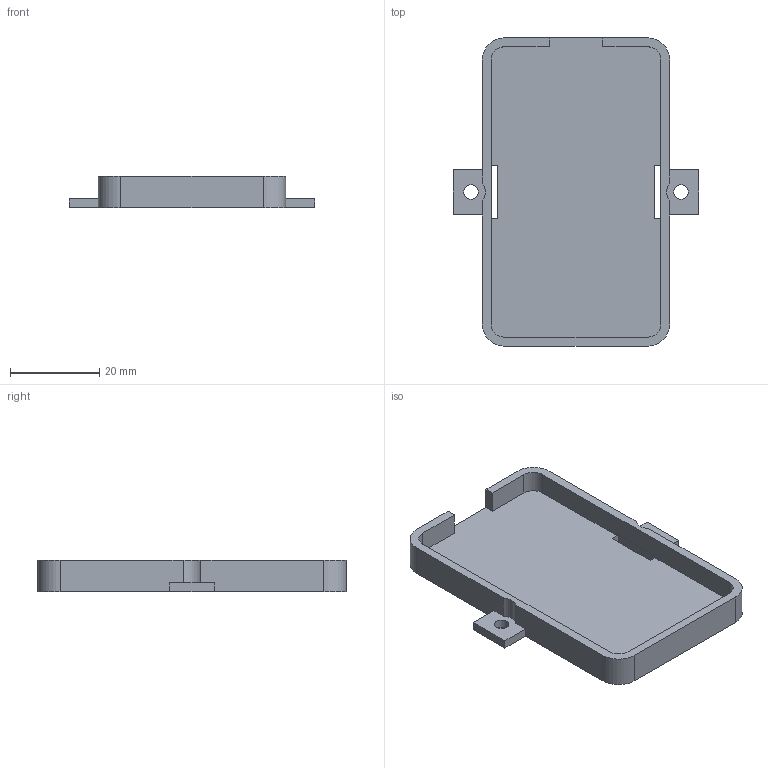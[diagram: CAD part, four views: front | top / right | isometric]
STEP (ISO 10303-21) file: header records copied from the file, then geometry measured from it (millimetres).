
FILE_DESCRIPTION(('Open CASCADE Model'),'2;1');
FILE_NAME('Open CASCADE Shape Model','2026-09-16T15:55:10',('Author'),( 'Open CASCADE'),'Open CASCADE STEP processor 7.9','Open CASCADE 7.9' ,'Unknown');
FILE_SCHEMA(('AUTOMOTIVE_DESIGN { 1 0 10303 214 1 1 1 1 }'));
Length unit declared in the file: millimetre
Products named in the file (1): Open CASCADE STEP translator 7.9 9
Bounding box: 55 x 69 x 7 mm (x, y, z)
Volume: 7811.1 mm3; surface area: 8515.5 mm2
Topology: 1 solids, 1 shells, 46 faces, 138 edges, 92 vertices
Faces by surface type: plane 34, cylinder 12
Full cylindrical faces by diameter (mm): 3.2 x2
Entity records: 3309 total; most frequent: CARTESIAN_POINT 709, DIRECTION 431, ORIENTED_EDGE 276, LINE 276, VECTOR 276, PCURVE 276, DEFINITIONAL_REPRESENTATION 276, EDGE_CURVE 138
